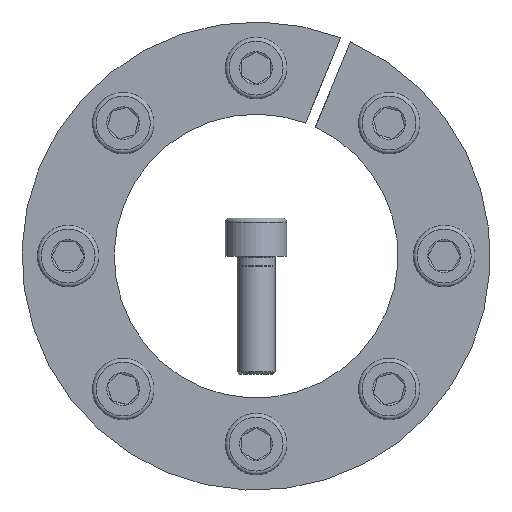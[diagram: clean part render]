
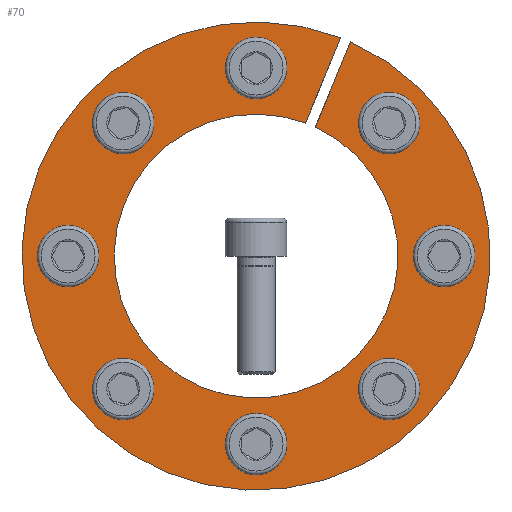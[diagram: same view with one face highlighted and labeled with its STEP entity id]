
A CAD part, front view. The second image highlights one B-rep face of the part: STEP entity #70.
In plain terms, the highlighted planar face has unit normal (0, -1, 0).
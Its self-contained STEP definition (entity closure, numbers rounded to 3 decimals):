
#70 = ADVANCED_FACE( '', ( #157, #158, #159, #160, #161, #162, #163, #164, #165 ), #166, .F. );
#157 = FACE_BOUND( '', #319, .T. );
#158 = FACE_BOUND( '', #320, .T. );
#159 = FACE_BOUND( '', #321, .T. );
#160 = FACE_BOUND( '', #322, .T. );
#161 = FACE_BOUND( '', #323, .T. );
#162 = FACE_BOUND( '', #324, .T. );
#163 = FACE_BOUND( '', #325, .T. );
#164 = FACE_BOUND( '', #326, .T. );
#165 = FACE_OUTER_BOUND( '', #327, .T. );
#166 = PLANE( '', #328 );
#319 = EDGE_LOOP( '', ( #504 ) );
#320 = EDGE_LOOP( '', ( #505 ) );
#321 = EDGE_LOOP( '', ( #506 ) );
#322 = EDGE_LOOP( '', ( #507 ) );
#323 = EDGE_LOOP( '', ( #508 ) );
#324 = EDGE_LOOP( '', ( #509 ) );
#325 = EDGE_LOOP( '', ( #510 ) );
#326 = EDGE_LOOP( '', ( #511 ) );
#327 = EDGE_LOOP( '', ( #512, #513, #514, #515 ) );
#328 = AXIS2_PLACEMENT_3D( '', #516, #517, #518 );
#504 = ORIENTED_EDGE( '', *, *, #801, .T. );
#505 = ORIENTED_EDGE( '', *, *, #802, .T. );
#506 = ORIENTED_EDGE( '', *, *, #803, .T. );
#507 = ORIENTED_EDGE( '', *, *, #804, .T. );
#508 = ORIENTED_EDGE( '', *, *, #805, .T. );
#509 = ORIENTED_EDGE( '', *, *, #806, .T. );
#510 = ORIENTED_EDGE( '', *, *, #807, .T. );
#511 = ORIENTED_EDGE( '', *, *, #808, .T. );
#512 = ORIENTED_EDGE( '', *, *, #809, .T. );
#513 = ORIENTED_EDGE( '', *, *, #810, .T. );
#514 = ORIENTED_EDGE( '', *, *, #811, .T. );
#515 = ORIENTED_EDGE( '', *, *, #812, .F. );
#516 = CARTESIAN_POINT( '', ( 0., 0., 49.5 ) );
#517 = DIRECTION( '', ( 0., 1., 0. ) );
#518 = DIRECTION( '', ( 0., 0., 1. ) );
#801 = EDGE_CURVE( '', #952, #952, #953, .T. );
#802 = EDGE_CURVE( '', #954, #954, #955, .T. );
#803 = EDGE_CURVE( '', #956, #956, #957, .T. );
#804 = EDGE_CURVE( '', #958, #958, #959, .T. );
#805 = EDGE_CURVE( '', #960, #960, #961, .T. );
#806 = EDGE_CURVE( '', #962, #962, #963, .T. );
#807 = EDGE_CURVE( '', #964, #964, #965, .T. );
#808 = EDGE_CURVE( '', #966, #966, #967, .T. );
#809 = EDGE_CURVE( '', #968, #969, #970, .T. );
#810 = EDGE_CURVE( '', #969, #971, #972, .T. );
#811 = EDGE_CURVE( '', #971, #973, #974, .T. );
#812 = EDGE_CURVE( '', #968, #973, #975, .T. );
#952 = VERTEX_POINT( '', #1239 );
#953 = CIRCLE( '', #1240, 4. );
#954 = VERTEX_POINT( '', #1241 );
#955 = CIRCLE( '', #1242, 4. );
#956 = VERTEX_POINT( '', #1243 );
#957 = CIRCLE( '', #1244, 4. );
#958 = VERTEX_POINT( '', #1245 );
#959 = CIRCLE( '', #1246, 4. );
#960 = VERTEX_POINT( '', #1247 );
#961 = CIRCLE( '', #1248, 4. );
#962 = VERTEX_POINT( '', #1249 );
#963 = CIRCLE( '', #1250, 4. );
#964 = VERTEX_POINT( '', #1251 );
#965 = CIRCLE( '', #1252, 4. );
#966 = VERTEX_POINT( '', #1253 );
#967 = CIRCLE( '', #1254, 4. );
#968 = VERTEX_POINT( '', #1255 );
#969 = VERTEX_POINT( '', #1256 );
#970 = LINE( '', #1257, #1258 );
#971 = VERTEX_POINT( '', #1259 );
#972 = CIRCLE( '', #1260, 49.5 );
#973 = VERTEX_POINT( '', #1261 );
#974 = LINE( '', #1262, #1263 );
#975 = CIRCLE( '', #1264, 30. );
#1239 = CARTESIAN_POINT( '', ( -25.279, 0., 30.936 ) );
#1240 = AXIS2_PLACEMENT_3D( '', #1443, #1444, #1445 );
#1241 = CARTESIAN_POINT( '', ( -30.936, 0., -25.279 ) );
#1242 = AXIS2_PLACEMENT_3D( '', #1446, #1447, #1448 );
#1243 = CARTESIAN_POINT( '', ( 25.279, 0., -30.936 ) );
#1244 = AXIS2_PLACEMENT_3D( '', #1449, #1450, #1451 );
#1245 = CARTESIAN_POINT( '', ( 30.936, 0., 25.279 ) );
#1246 = AXIS2_PLACEMENT_3D( '', #1452, #1453, #1454 );
#1247 = CARTESIAN_POINT( '', ( 4., 0., 39.75 ) );
#1248 = AXIS2_PLACEMENT_3D( '', #1455, #1456, #1457 );
#1249 = CARTESIAN_POINT( '', ( 39.75, 0., -4. ) );
#1250 = AXIS2_PLACEMENT_3D( '', #1458, #1459, #1460 );
#1251 = CARTESIAN_POINT( '', ( -4., 0., -39.75 ) );
#1252 = AXIS2_PLACEMENT_3D( '', #1461, #1462, #1463 );
#1253 = CARTESIAN_POINT( '', ( -39.75, 0., 4. ) );
#1254 = AXIS2_PLACEMENT_3D( '', #1464, #1465, #1466 );
#1255 = CARTESIAN_POINT( '', ( 10.433, 0., 28.127 ) );
#1256 = CARTESIAN_POINT( '', ( 17.899, 0., 46.151 ) );
#1257 = CARTESIAN_POINT( '', ( 10.433, 0., 28.127 ) );
#1258 = VECTOR( '', #1467, 1000. );
#1259 = CARTESIAN_POINT( '', ( 19.977, 0., 45.29 ) );
#1260 = AXIS2_PLACEMENT_3D( '', #1468, #1469, #1470 );
#1261 = CARTESIAN_POINT( '', ( 12.512, 0., 27.266 ) );
#1262 = CARTESIAN_POINT( '', ( 19.982, 0., 45.302 ) );
#1263 = VECTOR( '', #1471, 1000. );
#1264 = AXIS2_PLACEMENT_3D( '', #1472, #1473, #1474 );
#1443 = CARTESIAN_POINT( '', ( -28.107, 0., 28.107 ) );
#1444 = DIRECTION( '', ( 0., 1., 0. ) );
#1445 = DIRECTION( '', ( 0.707, 0., 0.707 ) );
#1446 = CARTESIAN_POINT( '', ( -28.107, 0., -28.107 ) );
#1447 = DIRECTION( '', ( 0., 1., 0. ) );
#1448 = DIRECTION( '', ( -0.707, 0., 0.707 ) );
#1449 = CARTESIAN_POINT( '', ( 28.107, 0., -28.107 ) );
#1450 = DIRECTION( '', ( 0., 1., 0. ) );
#1451 = DIRECTION( '', ( -0.707, 0., -0.707 ) );
#1452 = CARTESIAN_POINT( '', ( 28.107, 0., 28.107 ) );
#1453 = DIRECTION( '', ( 0., 1., 0. ) );
#1454 = DIRECTION( '', ( 0.707, 0., -0.707 ) );
#1455 = CARTESIAN_POINT( '', ( 0., 0., 39.75 ) );
#1456 = DIRECTION( '', ( 0., 1., 0. ) );
#1457 = DIRECTION( '', ( 1., 0., 0. ) );
#1458 = CARTESIAN_POINT( '', ( 39.75, 0., 0. ) );
#1459 = DIRECTION( '', ( 0., 1., 0. ) );
#1460 = DIRECTION( '', ( 0., 0., -1. ) );
#1461 = CARTESIAN_POINT( '', ( 0., 0., -39.75 ) );
#1462 = DIRECTION( '', ( 0., 1., 0. ) );
#1463 = DIRECTION( '', ( -1., 0., 0. ) );
#1464 = CARTESIAN_POINT( '', ( -39.75, 0., 0. ) );
#1465 = DIRECTION( '', ( 0., 1., 0. ) );
#1466 = DIRECTION( '', ( 0., 0., 1. ) );
#1467 = DIRECTION( '', ( 0.383, 0., 0.924 ) );
#1468 = CARTESIAN_POINT( '', ( 0., 0., 0. ) );
#1469 = DIRECTION( '', ( 0., -1., 0. ) );
#1470 = DIRECTION( '', ( 0., 0., -1. ) );
#1471 = DIRECTION( '', ( -0.383, 0., -0.924 ) );
#1472 = CARTESIAN_POINT( '', ( 0., 0., 0. ) );
#1473 = DIRECTION( '', ( 0., -1., 0. ) );
#1474 = DIRECTION( '', ( 0., 0., -1. ) );
